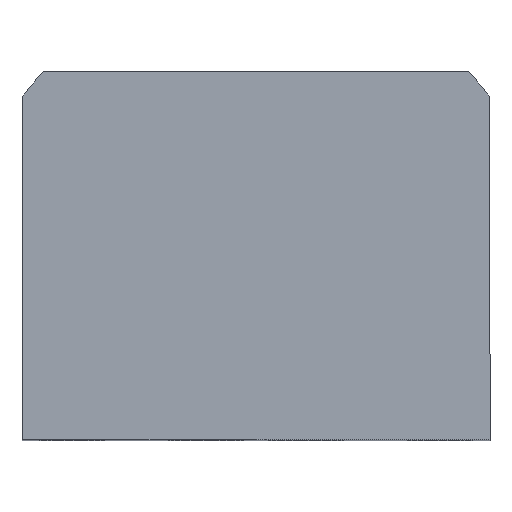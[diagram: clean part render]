
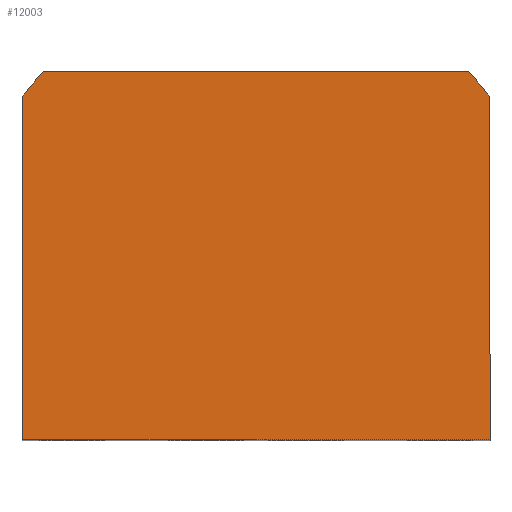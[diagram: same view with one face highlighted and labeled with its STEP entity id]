
A CAD part, top view. The second image highlights one B-rep face of the part: STEP entity #12003.
In plain terms, the highlighted planar face has unit normal (0, 0, 1).
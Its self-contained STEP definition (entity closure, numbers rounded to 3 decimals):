
#248 = AXIS2_PLACEMENT_3D ( 'NONE', #4733, #7008, #13644 ) ;
#271 = EDGE_CURVE ( 'NONE', #6637, #6224, #5896, .T. ) ;
#790 = CARTESIAN_POINT ( 'NONE',  ( 0., 0., 35. ) ) ;
#870 = ORIENTED_EDGE ( 'NONE', *, *, #9178, .T. ) ;
#1158 = CARTESIAN_POINT ( 'NONE',  ( 47., 34.832, 35. ) ) ;
#1303 = ORIENTED_EDGE ( 'NONE', *, *, #271, .T. ) ;
#1319 = DIRECTION ( 'NONE',  ( 0., 0., 1. ) ) ;
#1917 = DIRECTION ( 'NONE',  ( 0., 0., 1. ) ) ;
#2178 = EDGE_CURVE ( 'NONE', #7756, #5895, #3922, .T. ) ;
#3116 = DIRECTION ( 'NONE',  ( 1., 0., 0. ) ) ;
#3141 = ORIENTED_EDGE ( 'NONE', *, *, #2178, .T. ) ;
#3481 = DIRECTION ( 'NONE',  ( 0., -1., 0. ) ) ;
#3922 = CIRCLE ( 'NONE', #9070, 58.5 ) ;
#3952 = DIRECTION ( 'NONE',  ( 0., 1., 0. ) ) ;
#4484 = VERTEX_POINT ( 'NONE', #5459 ) ;
#4545 = FACE_OUTER_BOUND ( 'NONE', #10872, .T. ) ;
#4733 = CARTESIAN_POINT ( 'NONE',  ( 0., 0., 35. ) ) ;
#4751 = CARTESIAN_POINT ( 'NONE',  ( 47., -34., 35. ) ) ;
#4888 = EDGE_CURVE ( 'NONE', #12178, #7756, #8160, .T. ) ;
#5459 = CARTESIAN_POINT ( 'NONE',  ( -42.688, 40., 35. ) ) ;
#5584 = CARTESIAN_POINT ( 'NONE',  ( 42.688, 40., 35. ) ) ;
#5807 = EDGE_CURVE ( 'NONE', #4484, #6637, #7173, .T. ) ;
#5895 = VERTEX_POINT ( 'NONE', #5584 ) ;
#5896 = LINE ( 'NONE', #12501, #11513 ) ;
#6167 = VECTOR ( 'NONE', #10307, 1000. ) ;
#6224 = VERTEX_POINT ( 'NONE', #9228 ) ;
#6637 = VERTEX_POINT ( 'NONE', #7418 ) ;
#6965 = PLANE ( 'NONE',  #248 ) ;
#7008 = DIRECTION ( 'NONE',  ( 0., 0., 1. ) ) ;
#7173 = CIRCLE ( 'NONE', #8524, 58.5 ) ;
#7418 = CARTESIAN_POINT ( 'NONE',  ( -47., 34.832, 35. ) ) ;
#7619 = VECTOR ( 'NONE', #3952, 1000. ) ;
#7725 = ORIENTED_EDGE ( 'NONE', *, *, #4888, .T. ) ;
#7756 = VERTEX_POINT ( 'NONE', #1158 ) ;
#8026 = CARTESIAN_POINT ( 'NONE',  ( 0., 0., 35. ) ) ;
#8160 = LINE ( 'NONE', #9523, #7619 ) ;
#8180 = LINE ( 'NONE', #12965, #10801 ) ;
#8524 = AXIS2_PLACEMENT_3D ( 'NONE', #790, #1917, #3116 ) ;
#8798 = LINE ( 'NONE', #4751, #6167 ) ;
#9070 = AXIS2_PLACEMENT_3D ( 'NONE', #8026, #1319, #10240 ) ;
#9178 = EDGE_CURVE ( 'NONE', #5895, #4484, #8180, .T. ) ;
#9228 = CARTESIAN_POINT ( 'NONE',  ( -47., -34., 35. ) ) ;
#9503 = EDGE_CURVE ( 'NONE', #6224, #12178, #8798, .T. ) ;
#9523 = CARTESIAN_POINT ( 'NONE',  ( 47., 34.832, 35. ) ) ;
#9665 = DIRECTION ( 'NONE',  ( -1., 0., 0. ) ) ;
#10240 = DIRECTION ( 'NONE',  ( 1., 0., 0. ) ) ;
#10307 = DIRECTION ( 'NONE',  ( 1., 0., 0. ) ) ;
#10801 = VECTOR ( 'NONE', #9665, 1000. ) ;
#10872 = EDGE_LOOP ( 'NONE', ( #12581, #7725, #3141, #870, #14509, #1303 ) ) ;
#11513 = VECTOR ( 'NONE', #3481, 1000. ) ;
#12003 = ADVANCED_FACE ( 'NONE', ( #4545 ), #6965, .T. ) ;
#12178 = VERTEX_POINT ( 'NONE', #13036 ) ;
#12501 = CARTESIAN_POINT ( 'NONE',  ( -47., -34., 35. ) ) ;
#12581 = ORIENTED_EDGE ( 'NONE', *, *, #9503, .T. ) ;
#12965 = CARTESIAN_POINT ( 'NONE',  ( -42.688, 40., 35. ) ) ;
#13036 = CARTESIAN_POINT ( 'NONE',  ( 47., -34., 35. ) ) ;
#13644 = DIRECTION ( 'NONE',  ( 1., 0., 0. ) ) ;
#14509 = ORIENTED_EDGE ( 'NONE', *, *, #5807, .T. ) ;
